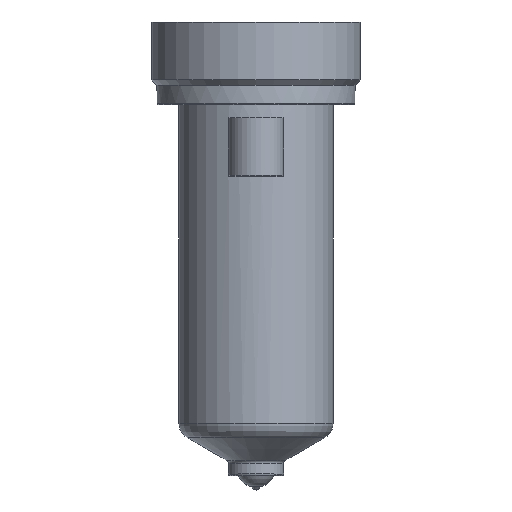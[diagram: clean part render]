
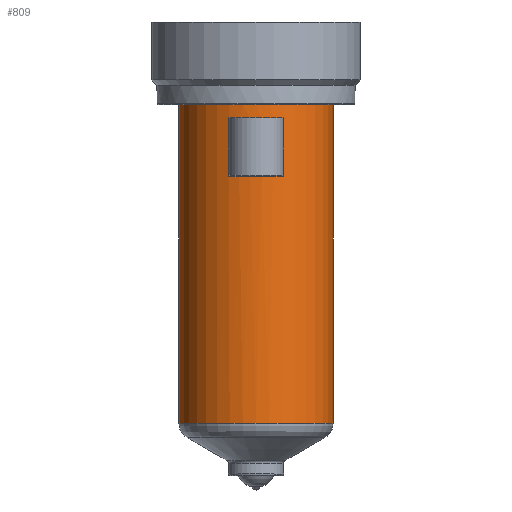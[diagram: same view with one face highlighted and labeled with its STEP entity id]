
A CAD part, top view. The second image highlights one B-rep face of the part: STEP entity #809.
In plain terms, the highlighted cylindrical face has radius 14 mm (diameter 28 mm), a partial arc.
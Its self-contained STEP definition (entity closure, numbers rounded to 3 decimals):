
#195=DIRECTION('',(0.,-1.,0.));
#196=VECTOR('',#195,57.893);
#197=CARTESIAN_POINT('',(14.,0.,0.));
#198=LINE('',#197,#196);
#199=CARTESIAN_POINT('',(0.,-57.893,0.));
#200=DIRECTION('',(0.,1.,0.));
#201=DIRECTION('',(-1.,0.,0.));
#202=AXIS2_PLACEMENT_3D('',#199,#200,#201);
#204=DIRECTION('',(0.,1.,0.));
#205=VECTOR('',#204,57.893);
#206=CARTESIAN_POINT('',(-14.,-57.893,0.));
#207=LINE('',#206,#205);
#208=CARTESIAN_POINT('',(0.,0.,0.));
#209=DIRECTION('',(0.,1.,0.));
#210=DIRECTION('',(-1.,0.,0.));
#211=AXIS2_PLACEMENT_3D('',#208,#209,#210);
#375=DIRECTION('',(0.,-1.,0.));
#376=VECTOR('',#375,10.5);
#377=CARTESIAN_POINT('',(-5.,-2.5,13.077));
#378=LINE('',#377,#376);
#383=CARTESIAN_POINT('',(0.,-13.,0.));
#384=DIRECTION('',(0.,1.,0.));
#385=DIRECTION('',(-0.357,0.,0.934));
#386=AXIS2_PLACEMENT_3D('',#383,#384,#385);
#418=CARTESIAN_POINT('',(0.,-2.5,0.));
#419=DIRECTION('',(0.,-1.,0.));
#420=DIRECTION('',(0.357,0.,0.934));
#421=AXIS2_PLACEMENT_3D('',#418,#419,#420);
#423=DIRECTION('',(0.,-1.,0.));
#424=VECTOR('',#423,10.5);
#425=CARTESIAN_POINT('',(5.,-2.5,13.077));
#426=LINE('',#425,#424);
#484=CARTESIAN_POINT('',(-14.,0.,0.));
#485=CARTESIAN_POINT('',(14.,0.,0.));
#486=VERTEX_POINT('',#484);
#487=VERTEX_POINT('',#485);
#496=CARTESIAN_POINT('',(5.,-2.5,13.077));
#497=VERTEX_POINT('',#496);
#498=CARTESIAN_POINT('',(-5.,-2.5,13.077));
#499=VERTEX_POINT('',#498);
#536=CARTESIAN_POINT('',(14.,-57.893,0.));
#537=VERTEX_POINT('',#536);
#546=CARTESIAN_POINT('',(-14.,-57.893,0.));
#547=VERTEX_POINT('',#546);
#568=CARTESIAN_POINT('',(-5.,-13.,13.077));
#569=CARTESIAN_POINT('',(5.,-13.,13.077));
#570=VERTEX_POINT('',#568);
#571=VERTEX_POINT('',#569);
#787=CARTESIAN_POINT('',(0.,16.4,0.));
#788=DIRECTION('',(0.,-1.,0.));
#789=DIRECTION('',(-1.,0.,0.));
#790=AXIS2_PLACEMENT_3D('',#787,#788,#789);
#791=CYLINDRICAL_SURFACE('',#790,14.);
#792=ORIENTED_EDGE('',*,*,#781,.T.);
#794=ORIENTED_EDGE('',*,*,#793,.F.);
#795=ORIENTED_EDGE('',*,*,#777,.T.);
#796=ORIENTED_EDGE('',*,*,#767,.T.);
#797=EDGE_LOOP('',(#792,#794,#795,#796));
#798=FACE_OUTER_BOUND('',#797,.F.);
#800=ORIENTED_EDGE('',*,*,#799,.T.);
#802=ORIENTED_EDGE('',*,*,#801,.T.);
#804=ORIENTED_EDGE('',*,*,#803,.F.);
#806=ORIENTED_EDGE('',*,*,#805,.T.);
#807=EDGE_LOOP('',(#800,#802,#804,#806));
#808=FACE_BOUND('',#807,.F.);
#809=ADVANCED_FACE('',(#798,#808),#791,.T.);
#203=CIRCLE('',#202,14.);
#212=CIRCLE('',#211,14.);
#387=CIRCLE('',#386,14.);
#422=CIRCLE('',#421,14.);
#767=EDGE_CURVE('',#486,#487,#212,.T.);
#777=EDGE_CURVE('',#547,#486,#207,.T.);
#781=EDGE_CURVE('',#487,#537,#198,.T.);
#793=EDGE_CURVE('',#547,#537,#203,.T.);
#799=EDGE_CURVE('',#499,#570,#378,.T.);
#801=EDGE_CURVE('',#570,#571,#387,.T.);
#803=EDGE_CURVE('',#497,#571,#426,.T.);
#805=EDGE_CURVE('',#497,#499,#422,.T.);
